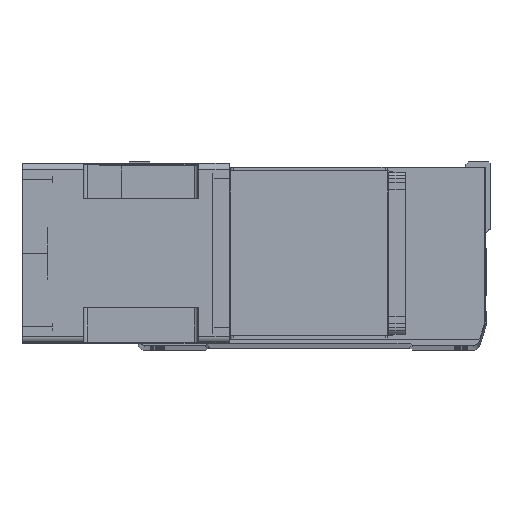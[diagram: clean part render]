
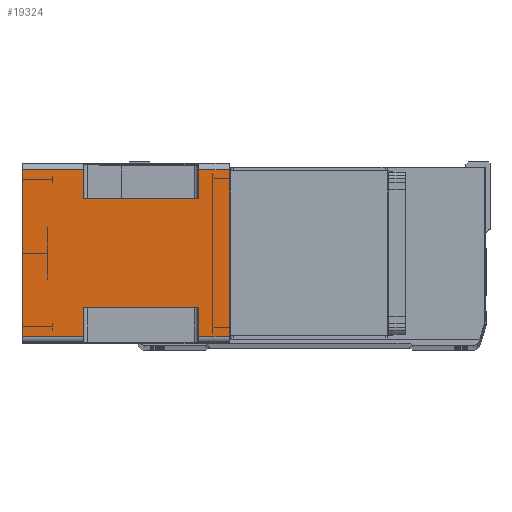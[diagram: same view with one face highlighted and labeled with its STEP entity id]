
A CAD part, top view. The second image highlights one B-rep face of the part: STEP entity #19324.
In plain terms, the highlighted planar face has unit normal (0, 0, 1) as drawn and (-1, 0, 0) by its records, which use the part's own axes.
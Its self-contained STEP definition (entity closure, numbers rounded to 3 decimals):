
#73 = LINE ( 'NONE', #29548, #38237 ) ;
#336 = ORIENTED_EDGE ( 'NONE', *, *, #27915, .T. ) ;
#491 = VECTOR ( 'NONE', #21535, 1000. ) ;
#893 = ORIENTED_EDGE ( 'NONE', *, *, #1973, .T. ) ;
#936 = ORIENTED_EDGE ( 'NONE', *, *, #27583, .T. ) ;
#1413 = VERTEX_POINT ( 'NONE', #18661 ) ;
#1783 = DIRECTION ( 'NONE',  ( 0., -1., 0. ) ) ;
#1925 = EDGE_CURVE ( 'NONE', #8834, #18289, #5802, .T. ) ;
#1973 = EDGE_CURVE ( 'NONE', #19042, #2718, #14835, .T. ) ;
#2718 = VERTEX_POINT ( 'NONE', #28052 ) ;
#3785 = CARTESIAN_POINT ( 'NONE',  ( -71., 66., 0. ) ) ;
#4708 = DIRECTION ( 'NONE',  ( 0., 0., 1. ) ) ;
#5198 = CARTESIAN_POINT ( 'NONE',  ( -71., -66., -164. ) ) ;
#5802 = LINE ( 'NONE', #15469, #32217 ) ;
#5938 = VECTOR ( 'NONE', #37868, 1000. ) ;
#6050 = VERTEX_POINT ( 'NONE', #12824 ) ;
#6424 = DIRECTION ( 'NONE',  ( 0., 0., 1. ) ) ;
#8057 = DIRECTION ( 'NONE',  ( 0., -1., 0. ) ) ;
#8190 = VERTEX_POINT ( 'NONE', #12437 ) ;
#8834 = VERTEX_POINT ( 'NONE', #20464 ) ;
#9308 = VECTOR ( 'NONE', #15837, 1000. ) ;
#9481 = LINE ( 'NONE', #39182, #491 ) ;
#9659 = LINE ( 'NONE', #39009, #37156 ) ;
#10014 = LINE ( 'NONE', #16473, #26871 ) ;
#11423 = LINE ( 'NONE', #40461, #22115 ) ;
#11603 = EDGE_CURVE ( 'NONE', #8190, #1413, #33231, .T. ) ;
#12084 = CARTESIAN_POINT ( 'NONE',  ( -71., 66., -24.5 ) ) ;
#12437 = CARTESIAN_POINT ( 'NONE',  ( -71., -66., -115.5 ) ) ;
#12694 = VERTEX_POINT ( 'NONE', #3785 ) ;
#12824 = CARTESIAN_POINT ( 'NONE',  ( -71., 43., -24.5 ) ) ;
#13318 = DIRECTION ( 'NONE',  ( 0., 1., 0. ) ) ;
#13460 = ORIENTED_EDGE ( 'NONE', *, *, #39894, .F. ) ;
#14246 = ORIENTED_EDGE ( 'NONE', *, *, #32898, .T. ) ;
#14835 = LINE ( 'NONE', #45983, #44552 ) ;
#15469 = CARTESIAN_POINT ( 'NONE',  ( -71., -66., -164. ) ) ;
#15624 = DIRECTION ( 'NONE',  ( 0., -1., 0. ) ) ;
#15837 = DIRECTION ( 'NONE',  ( 0., 0., 1. ) ) ;
#16473 = CARTESIAN_POINT ( 'NONE',  ( -71., -66., -164. ) ) ;
#17153 = DIRECTION ( 'NONE',  ( 0., -1., 0. ) ) ;
#17727 = ORIENTED_EDGE ( 'NONE', *, *, #18494, .F. ) ;
#18289 = VERTEX_POINT ( 'NONE', #18945 ) ;
#18494 = EDGE_CURVE ( 'NONE', #8834, #37351, #22336, .T. ) ;
#18661 = CARTESIAN_POINT ( 'NONE',  ( -71., -43., -115.5 ) ) ;
#18945 = CARTESIAN_POINT ( 'NONE',  ( -71., -66., -164. ) ) ;
#19042 = VERTEX_POINT ( 'NONE', #32531 ) ;
#19223 = CARTESIAN_POINT ( 'NONE',  ( -71., 66., -115.5 ) ) ;
#19324 = ADVANCED_FACE ( 'NONE', ( #40579 ), #26779, .T. ) ;
#19457 = VECTOR ( 'NONE', #17153, 1000. ) ;
#20373 = DIRECTION ( 'NONE',  ( 0., 0., 1. ) ) ;
#20464 = CARTESIAN_POINT ( 'NONE',  ( -71., 66., -164. ) ) ;
#21535 = DIRECTION ( 'NONE',  ( 0., -1., 0. ) ) ;
#21782 = LINE ( 'NONE', #36637, #30174 ) ;
#22115 = VECTOR ( 'NONE', #4708, 1000. ) ;
#22160 = VERTEX_POINT ( 'NONE', #26168 ) ;
#22336 = LINE ( 'NONE', #45071, #5938 ) ;
#22618 = VECTOR ( 'NONE', #13318, 1000. ) ;
#22963 = DIRECTION ( 'NONE',  ( 0., 1., 0. ) ) ;
#26168 = CARTESIAN_POINT ( 'NONE',  ( -71., -43., -24.5 ) ) ;
#26779 = PLANE ( 'NONE',  #34099 ) ;
#26871 = VECTOR ( 'NONE', #20373, 1000. ) ;
#27583 = EDGE_CURVE ( 'NONE', #18289, #8190, #10014, .T. ) ;
#27915 = EDGE_CURVE ( 'NONE', #22160, #19042, #21782, .T. ) ;
#28052 = CARTESIAN_POINT ( 'NONE',  ( -71., -66., 0. ) ) ;
#28395 = LINE ( 'NONE', #30088, #9308 ) ;
#28453 = EDGE_CURVE ( 'NONE', #37667, #6050, #30666, .T. ) ;
#29548 = CARTESIAN_POINT ( 'NONE',  ( -71., -66., -115.5 ) ) ;
#29652 = EDGE_CURVE ( 'NONE', #33130, #6050, #11423, .T. ) ;
#30088 = CARTESIAN_POINT ( 'NONE',  ( -71., 66., -164. ) ) ;
#30174 = VECTOR ( 'NONE', #8057, 1000. ) ;
#30452 = EDGE_LOOP ( 'NONE', ( #936, #43503, #13460, #336, #893, #33241, #31362, #45623, #31888, #14246, #17727, #42165 ) ) ;
#30666 = LINE ( 'NONE', #38590, #19457 ) ;
#31161 = CARTESIAN_POINT ( 'NONE',  ( -71., -43., -115.5 ) ) ;
#31362 = ORIENTED_EDGE ( 'NONE', *, *, #41922, .F. ) ;
#31888 = ORIENTED_EDGE ( 'NONE', *, *, #29652, .F. ) ;
#32217 = VECTOR ( 'NONE', #15624, 1000. ) ;
#32531 = CARTESIAN_POINT ( 'NONE',  ( -71., -66., -24.5 ) ) ;
#32898 = EDGE_CURVE ( 'NONE', #33130, #37351, #73, .T. ) ;
#33130 = VERTEX_POINT ( 'NONE', #34220 ) ;
#33231 = LINE ( 'NONE', #31161, #22618 ) ;
#33241 = ORIENTED_EDGE ( 'NONE', *, *, #34673, .F. ) ;
#33935 = DIRECTION ( 'NONE',  ( -1., 0., 0. ) ) ;
#34099 = AXIS2_PLACEMENT_3D ( 'NONE', #5198, #33935, #1783 ) ;
#34220 = CARTESIAN_POINT ( 'NONE',  ( -71., 43., -115.5 ) ) ;
#34673 = EDGE_CURVE ( 'NONE', #12694, #2718, #9481, .T. ) ;
#35616 = DIRECTION ( 'NONE',  ( 0., 0., -1. ) ) ;
#36637 = CARTESIAN_POINT ( 'NONE',  ( -71., -66., -24.5 ) ) ;
#37156 = VECTOR ( 'NONE', #35616, 1000. ) ;
#37351 = VERTEX_POINT ( 'NONE', #19223 ) ;
#37667 = VERTEX_POINT ( 'NONE', #12084 ) ;
#37868 = DIRECTION ( 'NONE',  ( 0., 0., 1. ) ) ;
#38237 = VECTOR ( 'NONE', #22963, 1000. ) ;
#38590 = CARTESIAN_POINT ( 'NONE',  ( -71., 43., -24.5 ) ) ;
#39009 = CARTESIAN_POINT ( 'NONE',  ( -71., -43., -164. ) ) ;
#39182 = CARTESIAN_POINT ( 'NONE',  ( -71., -66., 0. ) ) ;
#39894 = EDGE_CURVE ( 'NONE', #22160, #1413, #9659, .T. ) ;
#40461 = CARTESIAN_POINT ( 'NONE',  ( -71., 43., -164. ) ) ;
#40579 = FACE_OUTER_BOUND ( 'NONE', #30452, .T. ) ;
#41922 = EDGE_CURVE ( 'NONE', #37667, #12694, #28395, .T. ) ;
#42165 = ORIENTED_EDGE ( 'NONE', *, *, #1925, .T. ) ;
#43503 = ORIENTED_EDGE ( 'NONE', *, *, #11603, .T. ) ;
#44552 = VECTOR ( 'NONE', #6424, 1000. ) ;
#45071 = CARTESIAN_POINT ( 'NONE',  ( -71., 66., -164. ) ) ;
#45623 = ORIENTED_EDGE ( 'NONE', *, *, #28453, .T. ) ;
#45983 = CARTESIAN_POINT ( 'NONE',  ( -71., -66., -164. ) ) ;
